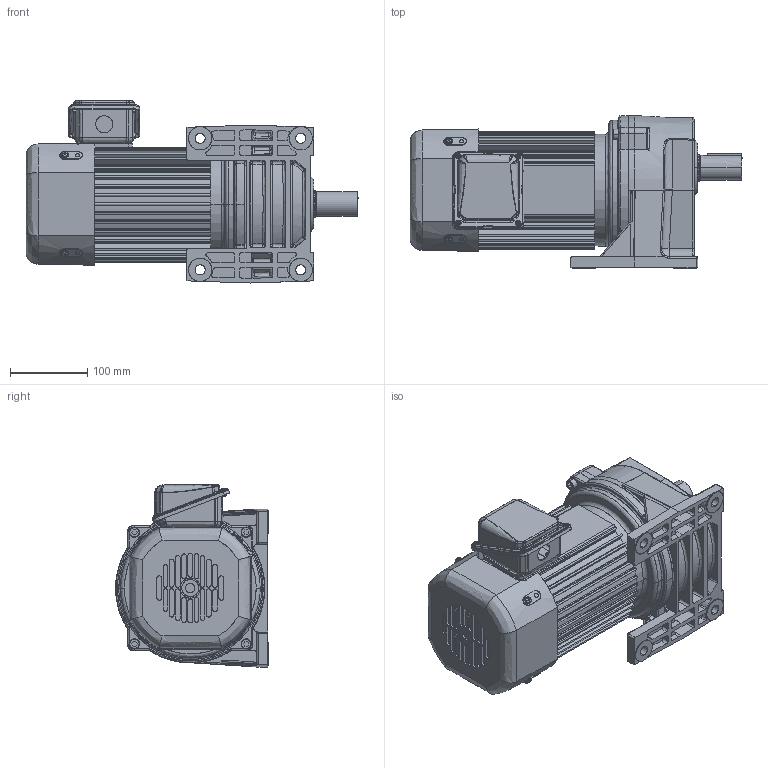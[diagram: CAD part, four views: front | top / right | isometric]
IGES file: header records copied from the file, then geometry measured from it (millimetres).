
Start section: SolidWorks IGES file using analytic representation for surfaces
Global section: file name: \\100.100.100.8\1_共有作業フォルダ\1-5_３Ｄデータ\solidworks\personal-folder\H.Nagayama\SGP1外形075~370\P1(3D)_075~370\igs\TML2-08E-(30~80).IGS; native system: SolidWorks 2018; preprocessor: SolidWorks 2018; author: sigma-giken; date: 200806.161818; units: millimetre
Bounding box: 429 x 197.5 x 235.2 mm (x, y, z)
Surface area: 627552 mm2 (no closed solid volume)
Topology: 0 solids, 0 shells, 1714 faces, 20607 edges, 20577 vertices
Faces by surface type: bspline 866, revolution 848
